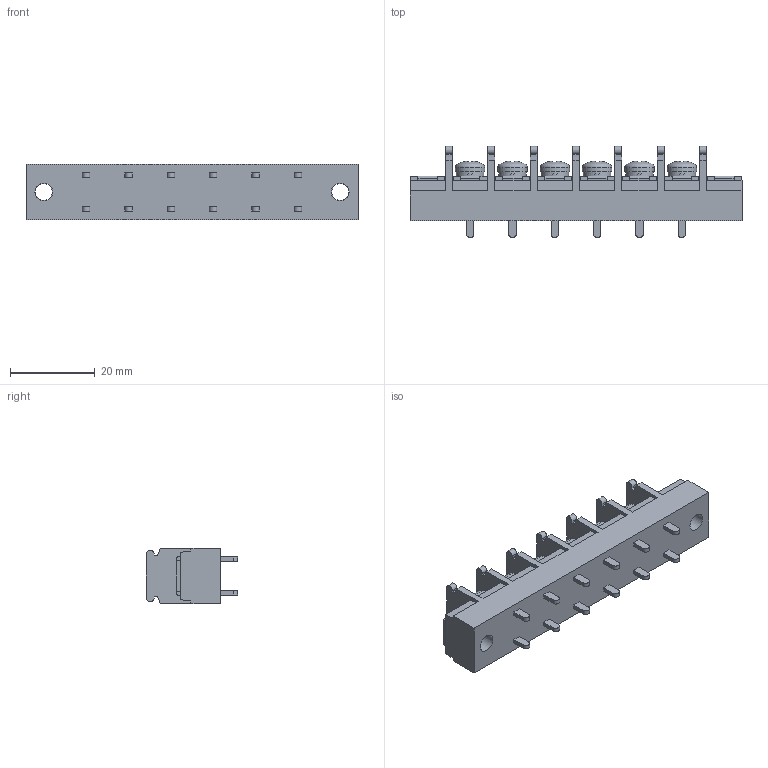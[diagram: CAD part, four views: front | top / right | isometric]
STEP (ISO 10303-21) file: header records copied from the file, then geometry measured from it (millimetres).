
FILE_DESCRIPTION(/* description */ ('Alibre Inc.'),/* implementation_level */ '2;1');
FILE_NAME(/* name */ 'export0',/* time_stamp */ '2015-10-17T19:04:04+09:00',/* author */ (''),/* organization */ (''),/* preprocessor_version */ 'ST-DEVELOPER v14',/* originating_system */ 'Alibre',/* authorisation */ '');
FILE_SCHEMA (('CONFIG_CONTROL_DESIGN'));
Length unit declared in the file: centimetre
Products named in the file (1): ID_1
Bounding box: 78.4 x 21.5 x 13 mm (x, y, z)
Volume: 11424.8 mm3; surface area: 6818.9 mm2
Topology: 1 solids, 17 shells, 848 faces, 2282 edges, 1516 vertices
Faces by surface type: plane 638, bspline 104, cylinder 64, cone 24, torus 12, sphere 6
Full cylindrical faces by diameter (mm): 4 x8, 4.2 x2, 6.5 x6, 7 x6
Entity records: 25631 total; most frequent: CARTESIAN_POINT 5693, ORIENTED_EDGE 4468, DIRECTION 3118, EDGE_CURVE 2234, VECTOR 1682, LINE 1682, VERTEX_POINT 1496, AXIS2_PLACEMENT_3D 1027
